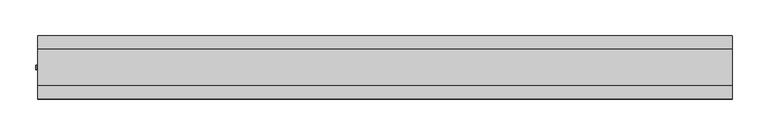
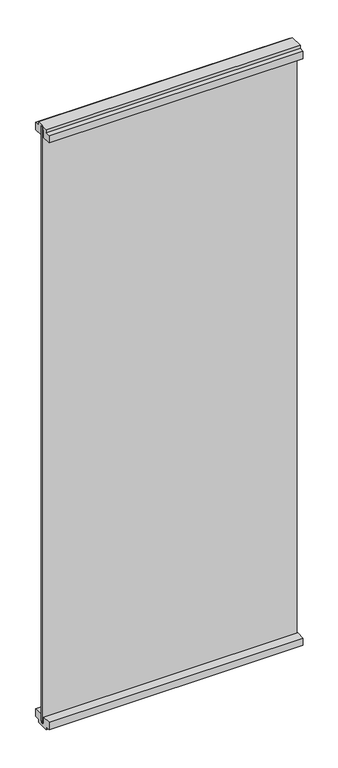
"""IFC4 building model written with IfcOpenShell, lengths in millimetres: furniture geometry, Allsteel - Aspect - Panel - 1-Way LH (11-25-24) : Allsteel - Aspect - Panel - 1-Way LH (11-25-24)."""

from ifc_helpers import new_model, si_unit, frame, origin, place, context, project, spatial, polyline, outline, extrude, source, transform, mapped, element, save


def furniture_ba9e5f29(model_context):
    return source(origin(), model_context, "Body", "SweptSolid", [
        extrude(outline(polyline([(977.10625, -3.175), (0.0, -3.175), (0.0, 3.175), (977.10625, 3.175), (977.10625, -3.175)])), frame((0.0, 0.0, 12.7), z_axis=(0.0, 0.0, 1.0), x_axis=(1.0, 0.0, 0.0)), (0.0, 0.0, 1.0), 2413.0),
        extrude(outline(polyline([(-25.4, 2438.4), (25.4, 2438.4), (25.4, 2425.7), (44.45, 2425.7), (44.45, 2395.5375), (9.525, 2395.5375), (9.525, 2425.7), (-9.525, 2425.7), (-9.525, 2395.5375), (-44.45, 2395.5375), (-44.45, 2425.7), (-25.4, 2425.7), (-25.4, 2438.4)])), frame((0.0, 0.0, 0.0), z_axis=(1.0, 0.0, 0.0), x_axis=(0.0, 1.0, 0.0)), (0.0, 0.0, 1.0), 977.10625),
        extrude(outline(polyline([(25.4, 0.0), (-25.4, 0.0), (-25.4, 12.7), (-44.45, 12.7), (-44.45, 42.8625), (-9.525, 42.8625), (-9.525, 12.7), (9.525, 12.7), (9.525, 42.8625), (44.45, 42.8625), (44.45, 12.7), (25.4, 12.7), (25.4, 0.0)])), frame((0.0, 0.0, 0.0), z_axis=(1.0, 0.0, 0.0), x_axis=(0.0, 1.0, 0.0)), (0.0, 0.0, 1.0), 977.10625),
        extrude(outline(polyline([(-1.2847077, 2.9978967), (-1.2847077, -3.3521033), (-3.3167077, -3.3521033), (-3.3167077, 2.9978967), (-1.2847077, 2.9978967)])), frame((0.0, 0.0, 22.225), z_axis=(0.0, 0.0, 1.0), x_axis=(1.0, 0.0, 0.0)), (0.0, 0.0, 1.0), 2416.175),
    ])


if __name__ == "__main__":
    model = new_model("IFC4")
    model_context = context("Model", 3, world=origin())
    ifc_project = project(units=[si_unit("LENGTHUNIT", "METRE", prefix="MILLI")], contexts=[model_context])
    site = spatial("IfcSite", under=ifc_project)
    building = spatial("IfcBuilding", under=site)
    placement = place(None, origin())
    furniture_shape = furniture_ba9e5f29(model_context)
    element("IfcFurniture", 1, ObjectType="Allsteel - Aspect - Panel - 1-Way LH (11-25-24) : Allsteel - Aspect - Panel - 1-Way LH (11-25-24)", at=placement, inside=building, context=model_context, shape_type="MappedRepresentation", body=[
        mapped(furniture_shape, transform((0.0, 0.0, 0.0), x_axis=(1.0, 0.0, 0.0), y_axis=(0.0, 1.0, 0.0), z_axis=(0.0, 0.0, 1.0))),
    ])
    save(model, "model.ifc")
